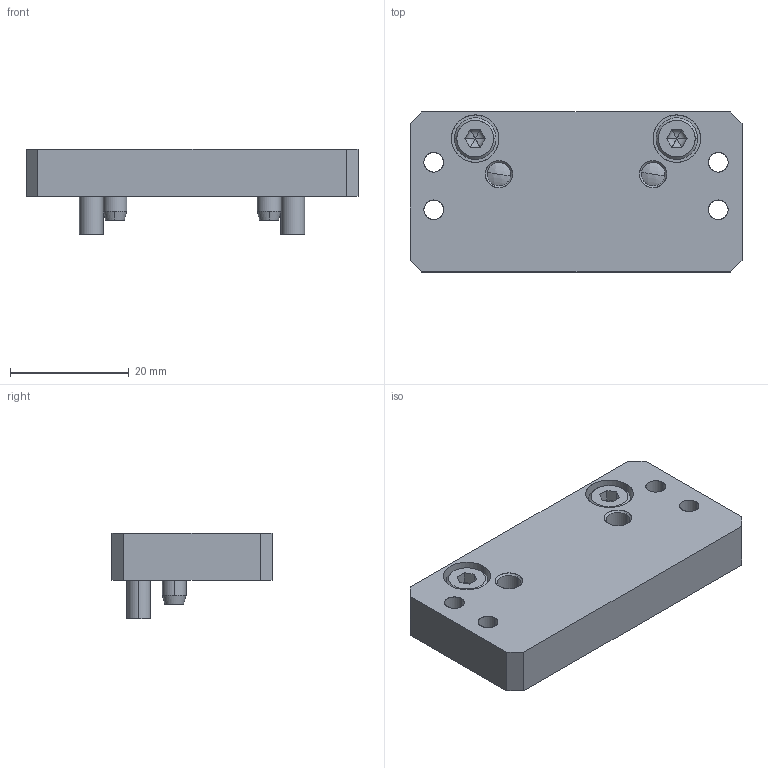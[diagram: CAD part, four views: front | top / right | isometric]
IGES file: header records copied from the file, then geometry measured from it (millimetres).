
Start section: SolidWorks IGES file using analytic representation for surfaces
Bounding box: 56 x 27 x 14.5 mm (x, y, z)
Surface area: 5815.6 mm2 (no closed solid volume)
Topology: 0 solids, 0 shells, 96 faces, 1400 edges, 1388 vertices
Faces by surface type: revolution 48, bspline 48
